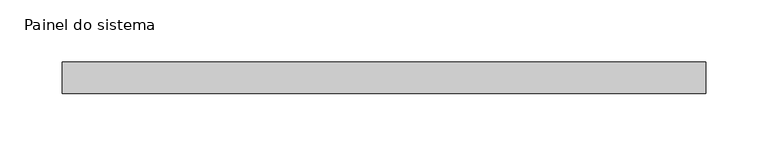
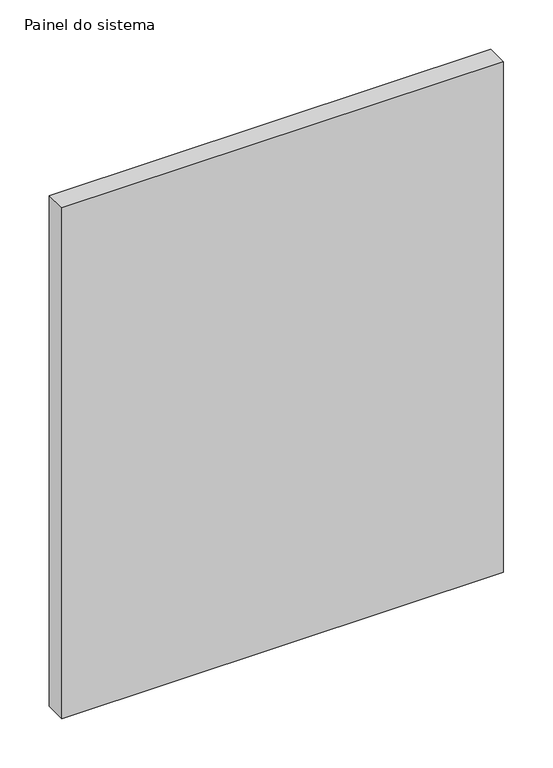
"""IFC4 building model written with IfcOpenShell, lengths in millimetres: plate geometry, Painel do sistema : Envidraçado."""

from ifc_helpers import new_model, si_unit, origin, origin_with_axes, place, context, project, spatial, polyline, outline, extrude, source, transform, mapped, element, save


def painel_do_sistema_39d3000c(model_context):
    return source(origin(), model_context, "Body", "SweptSolid", [
        extrude(outline(polyline([(257.5, -49.5), (-257.5, -49.5), (-257.5, -24.5), (257.5, -24.5), (257.5, -49.5)])), origin_with_axes(), (0.0, 0.0, 1.0), 630.0),
    ])


if __name__ == "__main__":
    model = new_model("IFC4")
    model_context = context("Model", 3, world=origin())
    ifc_project = project(units=[si_unit("LENGTHUNIT", "METRE", prefix="MILLI")], contexts=[model_context])
    site = spatial("IfcSite", under=ifc_project)
    building = spatial("IfcBuilding", under=site)
    placement = place(None, origin())
    painel_do_sistema_shape = painel_do_sistema_39d3000c(model_context)
    element("IfcPlate", 1, ObjectType="Painel do sistema : Envidraçado", at=placement, inside=building, context=model_context, shape_type="MappedRepresentation", body=[
        mapped(painel_do_sistema_shape, transform((0.0, 0.0, 0.0), x_axis=(1.0, 0.0, 0.0), y_axis=(0.0, 1.0, 0.0), z_axis=(0.0, 0.0, 1.0))),
    ])
    save(model, "model.ifc")
